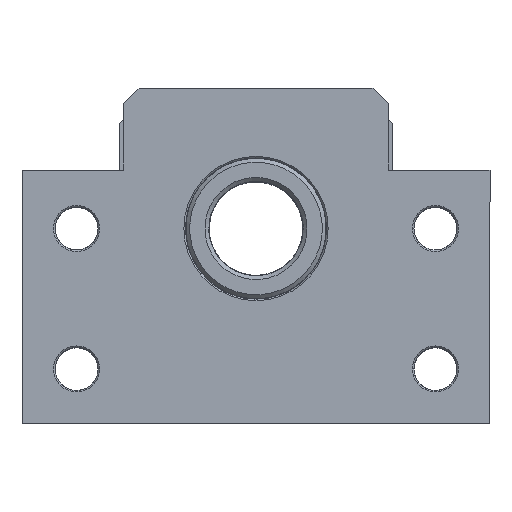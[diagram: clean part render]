
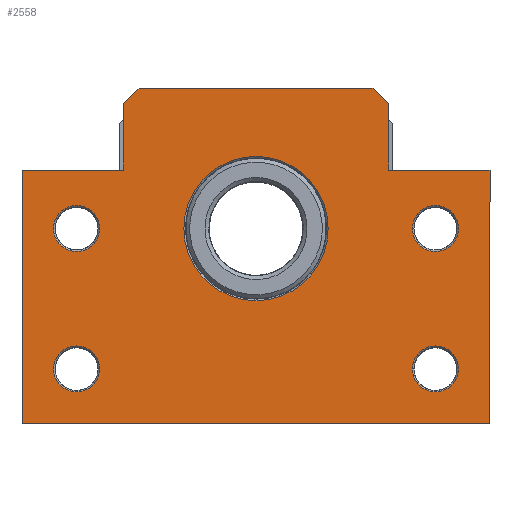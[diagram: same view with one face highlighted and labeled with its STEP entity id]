
A CAD part, top view. The second image highlights one B-rep face of the part: STEP entity #2558.
In plain terms, the highlighted planar face has unit normal (0, 0, 1).
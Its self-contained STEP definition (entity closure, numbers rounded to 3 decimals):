
#202=LINE('',#4343,#256);
#203=LINE('',#4345,#257);
#204=LINE('',#4347,#258);
#205=LINE('',#4349,#259);
#206=LINE('',#4351,#260);
#207=LINE('',#4353,#261);
#208=LINE('',#4355,#262);
#209=LINE('',#4357,#263);
#210=LINE('',#4359,#264);
#211=LINE('',#4360,#265);
#256=VECTOR('',#3272,2.828);
#257=VECTOR('',#3273,30.);
#258=VECTOR('',#3274,2.828);
#259=VECTOR('',#3275,8.5);
#260=VECTOR('',#3276,13.);
#261=VECTOR('',#3277,32.5);
#262=VECTOR('',#3278,60.);
#263=VECTOR('',#3279,32.5);
#264=VECTOR('',#3280,13.);
#265=VECTOR('',#3281,8.5);
#301=PLANE('',#2783);
#374=FACE_BOUND('',#774,.T.);
#375=FACE_BOUND('',#775,.T.);
#376=FACE_BOUND('',#776,.T.);
#377=FACE_BOUND('',#777,.T.);
#378=FACE_BOUND('',#778,.T.);
#569=FACE_OUTER_BOUND('',#773,.T.);
#773=EDGE_LOOP('',(#1911,#1912,#1913,#1914,#1915,#1916,#1917,#1918,#1919,
#1920));
#774=EDGE_LOOP('',(#1921));
#775=EDGE_LOOP('',(#1922));
#776=EDGE_LOOP('',(#1923));
#777=EDGE_LOOP('',(#1924));
#778=EDGE_LOOP('',(#1925));
#1121=CIRCLE('',#2780,9.25);
#1123=CIRCLE('',#2784,2.95);
#1124=CIRCLE('',#2785,2.95);
#1125=CIRCLE('',#2786,2.95);
#1126=CIRCLE('',#2787,2.95);
#1356=VERTEX_POINT('',#4335);
#1358=VERTEX_POINT('',#4341);
#1359=VERTEX_POINT('',#4342);
#1360=VERTEX_POINT('',#4344);
#1361=VERTEX_POINT('',#4346);
#1362=VERTEX_POINT('',#4348);
#1363=VERTEX_POINT('',#4350);
#1364=VERTEX_POINT('',#4352);
#1365=VERTEX_POINT('',#4354);
#1366=VERTEX_POINT('',#4356);
#1367=VERTEX_POINT('',#4358);
#1368=VERTEX_POINT('',#4361);
#1369=VERTEX_POINT('',#4363);
#1370=VERTEX_POINT('',#4365);
#1371=VERTEX_POINT('',#4367);
#1597=EDGE_CURVE('',#1356,#1356,#1121,.T.);
#1599=EDGE_CURVE('',#1358,#1359,#202,.T.);
#1600=EDGE_CURVE('',#1358,#1360,#203,.T.);
#1601=EDGE_CURVE('',#1361,#1360,#204,.T.);
#1602=EDGE_CURVE('',#1361,#1362,#205,.T.);
#1603=EDGE_CURVE('',#1362,#1363,#206,.T.);
#1604=EDGE_CURVE('',#1363,#1364,#207,.T.);
#1605=EDGE_CURVE('',#1364,#1365,#208,.T.);
#1606=EDGE_CURVE('',#1365,#1366,#209,.T.);
#1607=EDGE_CURVE('',#1366,#1367,#210,.T.);
#1608=EDGE_CURVE('',#1367,#1359,#211,.T.);
#1609=EDGE_CURVE('',#1368,#1368,#1123,.T.);
#1610=EDGE_CURVE('',#1369,#1369,#1124,.T.);
#1611=EDGE_CURVE('',#1370,#1370,#1125,.T.);
#1612=EDGE_CURVE('',#1371,#1371,#1126,.T.);
#1911=ORIENTED_EDGE('',*,*,#1599,.F.);
#1912=ORIENTED_EDGE('',*,*,#1600,.T.);
#1913=ORIENTED_EDGE('',*,*,#1601,.F.);
#1914=ORIENTED_EDGE('',*,*,#1602,.T.);
#1915=ORIENTED_EDGE('',*,*,#1603,.T.);
#1916=ORIENTED_EDGE('',*,*,#1604,.T.);
#1917=ORIENTED_EDGE('',*,*,#1605,.T.);
#1918=ORIENTED_EDGE('',*,*,#1606,.T.);
#1919=ORIENTED_EDGE('',*,*,#1607,.T.);
#1920=ORIENTED_EDGE('',*,*,#1608,.T.);
#1921=ORIENTED_EDGE('',*,*,#1609,.F.);
#1922=ORIENTED_EDGE('',*,*,#1610,.F.);
#1923=ORIENTED_EDGE('',*,*,#1611,.F.);
#1924=ORIENTED_EDGE('',*,*,#1612,.F.);
#1925=ORIENTED_EDGE('',*,*,#1597,.F.);
#2558=ADVANCED_FACE('',(#569,#374,#375,#376,#377,#378),#301,.T.);
#2780=AXIS2_PLACEMENT_3D('',#4336,#3264,#3265);
#2783=AXIS2_PLACEMENT_3D('',#4340,#3270,#3271);
#2784=AXIS2_PLACEMENT_3D('',#4362,#3282,#3283);
#2785=AXIS2_PLACEMENT_3D('',#4364,#3284,#3285);
#2786=AXIS2_PLACEMENT_3D('',#4366,#3286,#3287);
#2787=AXIS2_PLACEMENT_3D('',#4368,#3288,#3289);
#3264=DIRECTION('center_axis',(0.,0.,1.));
#3265=DIRECTION('ref_axis',(-1.,0.,0.));
#3270=DIRECTION('center_axis',(0.,0.,1.));
#3271=DIRECTION('ref_axis',(1.,0.,0.));
#3272=DIRECTION('',(0.707,-0.707,0.));
#3273=DIRECTION('',(-1.,0.,0.));
#3274=DIRECTION('',(0.707,0.707,0.));
#3275=DIRECTION('',(0.,-1.,0.));
#3276=DIRECTION('',(-1.,0.,0.));
#3277=DIRECTION('',(0.,-1.,0.));
#3278=DIRECTION('',(1.,0.,0.));
#3279=DIRECTION('',(0.,1.,0.));
#3280=DIRECTION('',(-1.,0.,0.));
#3281=DIRECTION('',(0.,1.,0.));
#3282=DIRECTION('center_axis',(0.,0.,1.));
#3283=DIRECTION('ref_axis',(-1.,0.,0.));
#3284=DIRECTION('center_axis',(0.,0.,1.));
#3285=DIRECTION('ref_axis',(-1.,0.,0.));
#3286=DIRECTION('center_axis',(0.,0.,1.));
#3287=DIRECTION('ref_axis',(-1.,0.,0.));
#3288=DIRECTION('center_axis',(0.,0.,1.));
#3289=DIRECTION('ref_axis',(-1.,0.,0.));
#4335=CARTESIAN_POINT('',(9.25,25.,25.));
#4336=CARTESIAN_POINT('Origin',(0.,25.,25.));
#4340=CARTESIAN_POINT('Origin',(-14.065,20.565,25.));
#4341=CARTESIAN_POINT('',(15.,43.,25.));
#4342=CARTESIAN_POINT('',(17.,41.,25.));
#4343=CARTESIAN_POINT('',(13.842,44.158,25.));
#4344=CARTESIAN_POINT('',(-15.,43.,25.));
#4345=CARTESIAN_POINT('',(17.,43.,25.));
#4346=CARTESIAN_POINT('',(-17.,41.,25.));
#4347=CARTESIAN_POINT('',(-20.875,37.125,25.));
#4348=CARTESIAN_POINT('',(-17.,32.5,25.));
#4349=CARTESIAN_POINT('',(-17.,43.,25.));
#4350=CARTESIAN_POINT('',(-30.,32.5,25.));
#4351=CARTESIAN_POINT('',(-17.,32.5,25.));
#4352=CARTESIAN_POINT('',(-30.,0.,25.));
#4353=CARTESIAN_POINT('',(-30.,32.5,25.));
#4354=CARTESIAN_POINT('',(30.,0.,25.));
#4355=CARTESIAN_POINT('',(-30.,0.,25.));
#4356=CARTESIAN_POINT('',(30.,32.5,25.));
#4357=CARTESIAN_POINT('',(30.,0.,25.));
#4358=CARTESIAN_POINT('',(17.,32.5,25.));
#4359=CARTESIAN_POINT('',(30.,32.5,25.));
#4360=CARTESIAN_POINT('',(17.,32.5,25.));
#4361=CARTESIAN_POINT('',(-20.05,7.,25.));
#4362=CARTESIAN_POINT('Origin',(-23.,7.,25.));
#4363=CARTESIAN_POINT('',(25.95,7.,25.));
#4364=CARTESIAN_POINT('Origin',(23.,7.,25.));
#4365=CARTESIAN_POINT('',(25.95,25.,25.));
#4366=CARTESIAN_POINT('Origin',(23.,25.,25.));
#4367=CARTESIAN_POINT('',(-20.05,25.,25.));
#4368=CARTESIAN_POINT('Origin',(-23.,25.,25.));
